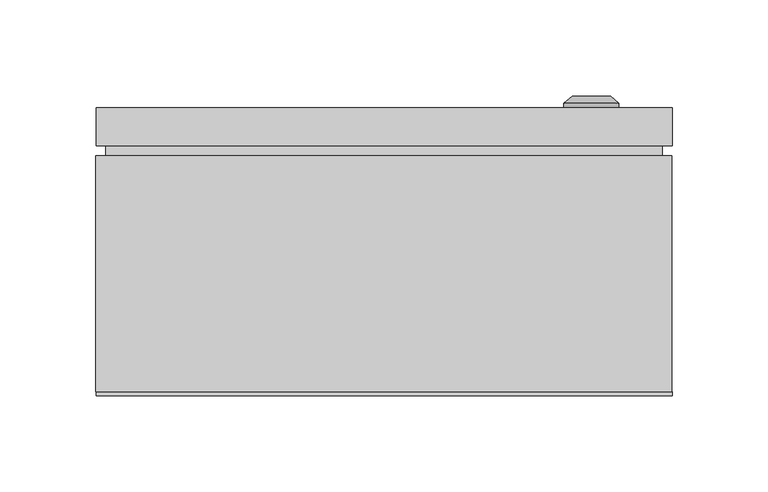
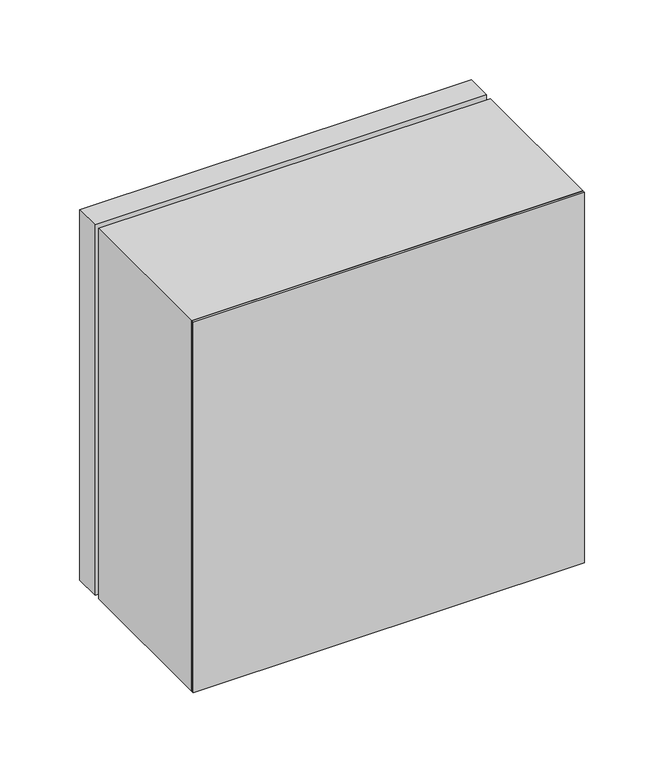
"""IFC4 building model written with IfcOpenShell, lengths in millimetres: proxy geometry, ЩМП_IP65 : ЩМП-3.3.15_300х300х150."""

from ifc_helpers import new_model, si_unit, frame, origin, origin_with_axes, place, context, project, spatial, polyline, circle_curve, outline, extrude, source, transform, mapped, element, save
from ifc_brep_helpers import plane_surface, cylinder_surface, revolved_surface, advanced_brep


def electrical_equipment_92aeceb9(model_context):
    return source(origin(), model_context, "Body", "SolidModel", [
        extrude(outline(polyline([(145.0, 125.0), (-145.0, 125.0), (-145.0, 130.0), (145.0, 130.0), (145.0, 125.0)])), frame((0.0, 0.0, 5.0), z_axis=(0.0, 0.0, 1.0), x_axis=(1.0, 0.0, 0.0)), (0.0, 0.0, 1.0), 290.0),
        extrude(outline(polyline([(150.0, 130.0), (-150.0, 130.0), (-150.0, 150.0), (150.0, 150.0), (150.0, 130.0)])), origin_with_axes(), (0.0, 0.0, 1.0), 300.0),
        advanced_brep(
        [(93.669873, 150.0, 145.0), (122.330127, 150.0, 145.0), (108.0, 150.0, 145.0), (93.669873, 152.366592, 145.0), (122.330127, 152.366592, 145.0), (98.0, 156.0, 145.0), (118.0, 156.0, 145.0), (106.1080471, 156.0, 145.0), (109.8919529, 156.0, 145.0), (106.1080471, 154.9822294, 145.0), (109.8919529, 154.9822294, 145.0), (108.0, 154.9822294, 145.0)],
        [
            (0, 1, circle_curve(frame((108.0, 150.0, 145.0), z_axis=(0.0, -1.0, 0.0), x_axis=(1.0, 0.0, 0.0)), 14.330127)),
            (1, 2),
            (2, 0),
            (1, 0, circle_curve(frame((108.0, 150.0, 145.0), z_axis=(0.0, -1.0, 0.0), x_axis=(1.0, 0.0, 0.0)), 14.330127)),
            (3, 4, circle_curve(frame((108.0, 152.366592, 145.0), z_axis=(0.0, -1.0, 0.0), x_axis=(1.0, 0.0, 0.0)), 14.330127)),
            (4, 1),
            (0, 3),
            (4, 3, circle_curve(frame((108.0, 152.366592, 145.0), z_axis=(0.0, -1.0, 0.0), x_axis=(1.0, 0.0, 0.0)), 14.330127)),
            (5, 6, circle_curve(frame((108.0, 156.0, 145.0), z_axis=(0.0, -1.0, 0.0), x_axis=(1.0, 0.0, 0.0)), 10.0)),
            (6, 4),
            (3, 5),
            (6, 5, circle_curve(frame((108.0, 156.0, 145.0), z_axis=(0.0, -1.0, 0.0), x_axis=(1.0, 0.0, 0.0)), 10.0)),
            (7, 8, circle_curve(frame((108.0, 156.0, 145.0), z_axis=(0.0, -1.0, 0.0), x_axis=(1.0, 0.0, 0.0)), 1.8919529)),
            (8, 6),
            (5, 7),
            (8, 7, circle_curve(frame((108.0, 156.0, 145.0), z_axis=(0.0, -1.0, 0.0), x_axis=(1.0, 0.0, 0.0)), 1.8919529)),
            (9, 10, circle_curve(frame((108.0, 154.9822294, 145.0), z_axis=(0.0, -1.0, 0.0), x_axis=(1.0, 0.0, 0.0)), 1.8919529)),
            (10, 8),
            (7, 9),
            (10, 9, circle_curve(frame((108.0, 154.9822294, 145.0), z_axis=(0.0, -1.0, 0.0), x_axis=(1.0, 0.0, 0.0)), 1.8919529)),
            (11, 10),
            (9, 11),
        ],
        [
            plane_surface(frame((108.0, 150.0, 145.0), z_axis=(0.0, -1.0, 0.0), x_axis=(1.0, 0.0, 0.0))),
            cylinder_surface(frame((108.0, 163.1348851, 145.0), z_axis=(0.0, 1.0, 0.0), x_axis=(1.0, 0.0, 0.0)), 14.330127),
            revolved_surface(polyline([(122.330127, 152.366592, 145.0), (118.0, 156.0, 145.0)]), (108.0, 163.1348851, 145.0), (0.0, 1.0, 0.0)),
            plane_surface(frame((108.0, 156.0, 145.0), z_axis=(0.0, 1.0, 0.0), x_axis=(1.0, 0.0, 0.0))),
            revolved_surface(polyline([(109.8919529, 156.0, 145.0), (109.8919529, 154.9822294, 145.0)]), (108.0, 163.1348851, 145.0), (0.0, 1.0, 0.0)),
            plane_surface(frame((108.0, 154.9822294, 145.0), z_axis=(0.0, 1.0, 0.0), x_axis=(1.0, 0.0, 0.0))),
        ],
        [
            (0, [[1, 2, 3]]),
            (0, [[4, -3, -2]]),
            (1, [[5, 6, -1, 7]]),
            (1, [[8, -7, -4, -6]]),
            (2, [[9, 10, -5, 11]]),
            (2, [[12, -11, -8, -10]]),
            (3, [[13, 14, -9, 15]]),
            (3, [[16, -15, -12, -14]]),
            (4, [[17, 18, -13, 19]]),
            (4, [[20, -19, -16, -18]]),
            (5, [[21, -17, 22]]),
            (5, [[-22, -20, -21]]),
        ],
    ),
        extrude(outline(polyline([(300.0, -150.0033905), (0.0, -150.0033905), (0.0, 149.9966095), (300.0, 149.9966095), (300.0, -150.0033905)]), holes=[polyline([(265.0, -118.0033905), (265.0, 117.9966095), (25.0, 117.9966095), (25.0, -118.0033905), (265.0, -118.0033905)])]), frame((0.0, 2.0, 0.0), z_axis=(0.0, 1.0, 0.0), x_axis=(0.0, 0.0, 1.0)), (0.0, 0.0, 1.0), 123.0),
        extrude(outline(polyline([(150.0, 0.0), (-150.0, 0.0), (-150.0, 2.0), (150.0, 2.0), (150.0, 0.0)])), origin_with_axes(), (0.0, 0.0, 1.0), 300.0),
    ])


if __name__ == "__main__":
    model = new_model("IFC4")
    model_context = context("Model", 3, world=origin())
    ifc_project = project(units=[si_unit("LENGTHUNIT", "METRE", prefix="MILLI")], contexts=[model_context])
    site = spatial("IfcSite", under=ifc_project)
    building = spatial("IfcBuilding", under=site)
    placement = place(None, origin())
    electrical_equipment_shape = electrical_equipment_92aeceb9(model_context)
    element("IfcBuildingElementProxy", 1, Name="ЩМП_IP65 : ЩМП-3.3.15_300х300х150", ObjectType="ЩМП_IP65 : ЩМП-3.3.15_300х300х150", at=placement, inside=building, context=model_context, shape_type="MappedRepresentation", body=[
        mapped(electrical_equipment_shape, transform((0.0, 0.0, 0.0), x_axis=(1.0, 0.0, 0.0), y_axis=(0.0, 1.0, 0.0), z_axis=(0.0, 0.0, 1.0))),
    ])
    save(model, "model.ifc")
